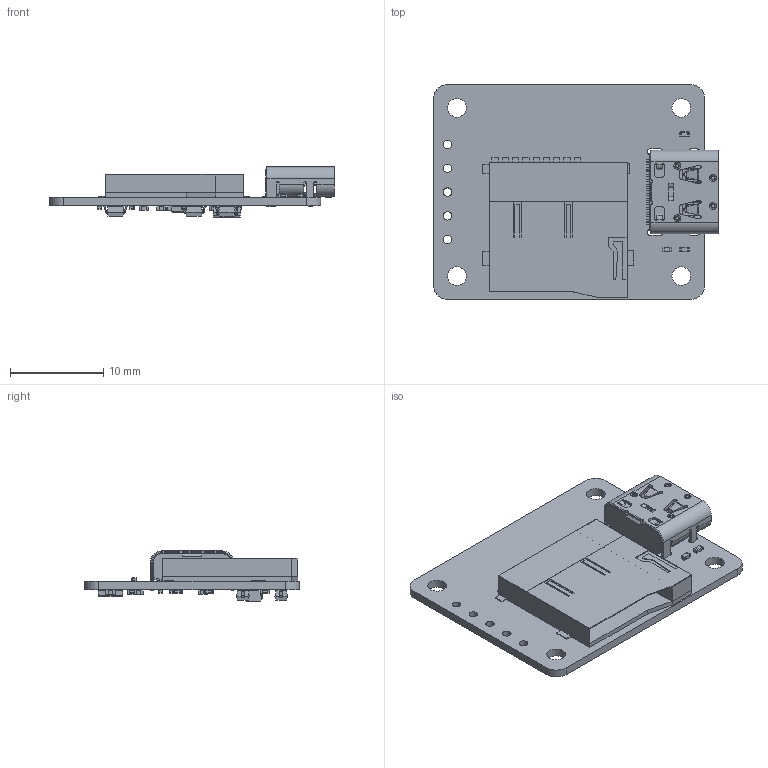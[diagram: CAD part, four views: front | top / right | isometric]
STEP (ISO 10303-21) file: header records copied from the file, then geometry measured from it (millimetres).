
FILE_DESCRIPTION(('Open CASCADE Model'),'2;1');
FILE_NAME('Open CASCADE Shape Model','2024-12-18T10:05:23',('Author'),( 'Open CASCADE'),'Open CASCADE STEP processor 6.8','Open CASCADE 6.8' ,'Unknown');
FILE_SCHEMA(('AUTOMOTIVE_DESIGN { 1 0 10303 214 1 1 1 1 }'));
Length unit declared in the file: millimetre
Products named in the file (67): PCB; Board; R11; RESC1005(0402); R10; M1; 669794872; Extruded; 669795008; 669793512; 669793648; 669793784; 669793920; 669794056; 669794192; 669794328; 669794464; 669794600; 669794736; C11; CAPC1005(0402); C10; C9; C1; C2; C4; C6; C7; C8; D1; SW3dPS-SOD-323; D2; D3; Q4; SOT-23-3; R1; R2; R3; R4; R5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
Assembly tree (98 placements, depth 4):
  PCB
    Board
    R11
      RESC1005(0402)
    R10
      RESC1005(0402)
    M1
      669794872
        Extruded
      669795008
        Extruded
      669793512
        Extruded
      669793648
        Extruded
      669793784
        Extruded
      669793920
        Extruded
      669794056
        Extruded
      669794192  x9
        Extruded
      669794328
        Extruded
      669794464
        Extruded
      669794600
        Extruded
      669794736
        Extruded
    C11
      CAPC1005(0402)
    C10
      CAPC1005(0402)
    C9
      CAPC1005(0402)
    C1
      CAPC1005(0402)
    C2
      CAPC1005(0402)
    C4
      CAPC1005(0402)
    C6
      CAPC1005(0402)
    C7
      CAPC1005(0402)
    C8
      CAPC1005(0402)
    D1
      SW3dPS-SOD-323
    D2
      SW3dPS-SOD-323
    D3
      SW3dPS-SOD-323
    Q4
      SOT-23-3
    R1
      RESC1005(0402)
    R2
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Bounding box: 30.48 x 23 x 5.36 mm (x, y, z)
Volume: 924.2 mm3; surface area: 3301.3 mm2
Topology: 57 solids, 64 shells, 2690 faces, 6880 edges, 4175 vertices
Faces by surface type: plane 1557, cylinder 730, sphere 172, bspline 152, torus 54, cone 25
Full cylindrical faces by diameter (mm): 0.65 x2, 0.9 x5, 1.2 x2, 2 x4
Entity records: 180006 total; most frequent: CARTESIAN_POINT 88064, DIRECTION 15218, LINE 9909, VECTOR 9909, ORIENTED_EDGE 9520, PCURVE 9514, DEFINITIONAL_REPRESENTATION 9514, EDGE_CURVE 4757
